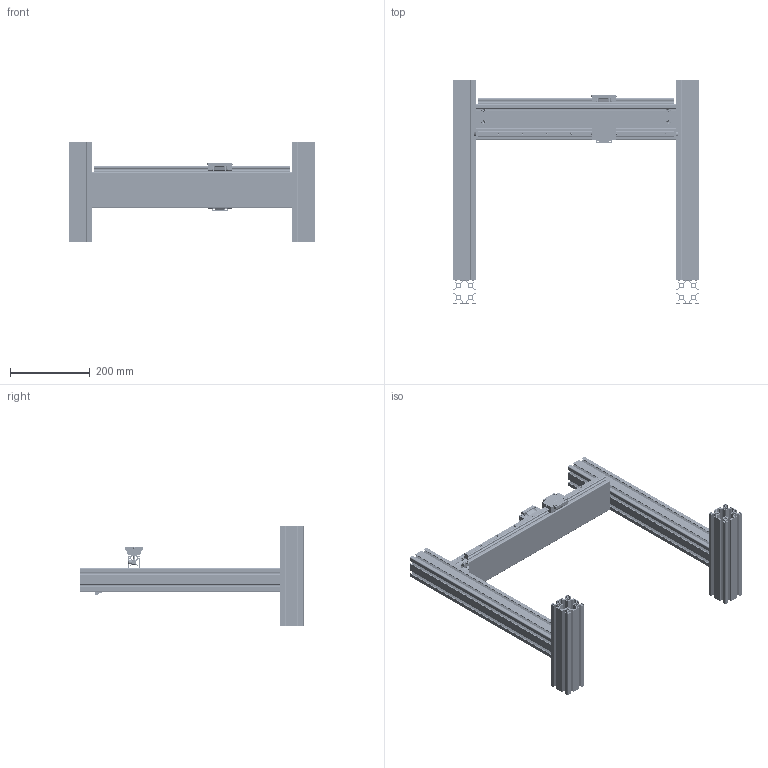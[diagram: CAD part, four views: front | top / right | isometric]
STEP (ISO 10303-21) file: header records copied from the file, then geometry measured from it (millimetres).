
FILE_DESCRIPTION(/* description */ ('www.motedis.com','CAx-IF Rec.Pracs.---Representation and Presentation of Product Manufacturing Information (PMI)---4.0---2014-10-13'),/* implementation_level */ '2;1');
FILE_NAME(/* name */ 'DIY Linear Motion Test Bench.stp',/* time_stamp */ '2026-03-23T09:30:28+01:00',/* author */ ('Motedis'),/* organization */ ('Motedis GmbH'),/* preprocessor_version */ 'ST-DEVELOPER v20.1',/* originating_system */ 'Autodesk Inventor 2026',/* authorisation */ 'Motedis GmbH');
FILE_SCHEMA (('AP242_MANAGED_MODEL_BASED_3D_ENGINEERING_MIM_LF { 1 0 10303 442 2 1 4 }'));
Products named in the file (11): TestBenchLinealGuidesCintas; HGW15CA; HGW15CA_1; Profile_60x60_8N_B-Type_Slot_8(250mm); Profile_60x60_8N_B-Type_Slot_8(500mm); Profile_60x60_8N_B-Type_Slot_8(500mm)_1; Motedis_Profile_30x90x90_6N_B-Type_Slot_8(500mm); HGW15CA L=490mm; 099b08110790; 099b08110700; DIN 912 - M4 x 16
Assembly tree (33 placements, depth 2):
  TestBenchLinealGuidesCintas
    HGW15CA
    HGW15CA_1
    Profile_60x60_8N_B-Type_Slot_8(250mm)  x2
    Profile_60x60_8N_B-Type_Slot_8(500mm)
    Profile_60x60_8N_B-Type_Slot_8(500mm)_1
    Motedis_Profile_30x90x90_6N_B-Type_Slot_8(500mm)
    HGW15CA L=490mm  x2
    099b08110790  x4
    099b08110700  x4
    DIN 912 - M4 x 16  x16
Bounding box: 620 x 560 x 250 mm (x, y, z)
Volume: 2342872.7 mm3; surface area: 2069188.9 mm2
Topology: 69 solids, 69 shells, 5376 faces, 14866 edges, 9608 vertices
Faces by surface type: plane 2384, cylinder 2088, cone 624, torus 120, bspline 92, sphere 68
Full cylindrical faces by diameter (mm): 3.3 x8, 4 x28, 4.134 x8, 4.5 x16, 5.5 x4, 5.7 x8, 7 x152, 7.1 x16, 7.3 x8, 7.5 x16, 8 x40, 10.85 x8
Entity records: 107402 total; most frequent: CARTESIAN_POINT 25661, DIRECTION 17184, ORIENTED_EDGE 17088, EDGE_CURVE 8544, AXIS2_PLACEMENT_3D 5900, VERTEX_POINT 5604, LINE 5384, VECTOR 5384
